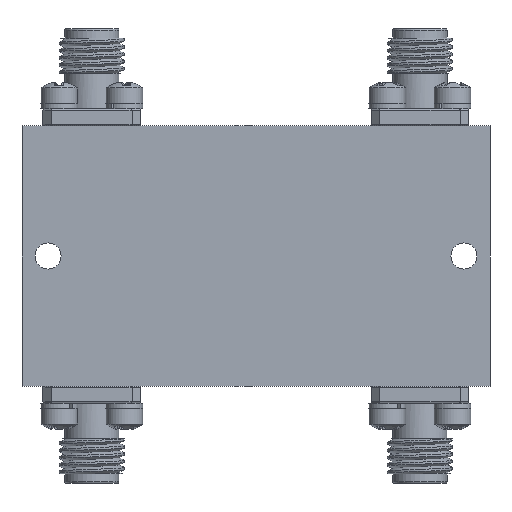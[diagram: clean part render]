
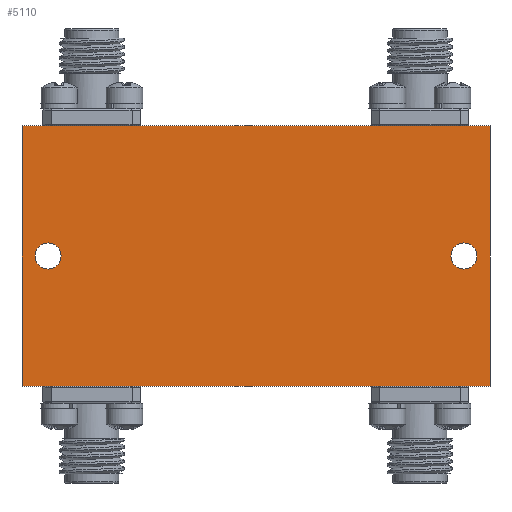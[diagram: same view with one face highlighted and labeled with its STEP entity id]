
A CAD part, front view. The second image highlights one B-rep face of the part: STEP entity #5110.
In plain terms, the highlighted planar face has unit normal (0, -1, 0).
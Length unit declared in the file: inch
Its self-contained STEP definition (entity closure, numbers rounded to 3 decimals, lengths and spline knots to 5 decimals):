
#1113 = LINE ( 'NONE', #6096, #52183 ) ;
#2131 = ORIENTED_EDGE ( 'NONE', *, *, #45389, .T. ) ;
#2616 = EDGE_LOOP ( 'NONE', ( #44532 ) ) ;
#3376 = CARTESIAN_POINT ( 'NONE',  ( -0.7985, -0.2165, 0. ) ) ;
#4237 = CARTESIAN_POINT ( 'NONE',  ( -0.7985, -0.2165, 0.05 ) ) ;
#4431 = PLANE ( 'NONE',  #14221 ) ;
#5110 = ADVANCED_FACE ( 'NONE', ( #8558, #30798, #25552 ), #4431, .F. ) ;
#5269 = AXIS2_PLACEMENT_3D ( 'NONE', #53994, #41235, #7954 ) ;
#5373 = VERTEX_POINT ( 'NONE', #21612 ) ;
#5715 = CARTESIAN_POINT ( 'NONE',  ( 0.8985, -0.2165, -0.5 ) ) ;
#6096 = CARTESIAN_POINT ( 'NONE',  ( -0.8985, -0.2165, -0.5 ) ) ;
#6631 = VECTOR ( 'NONE', #47220, 39.37008 ) ;
#6788 = CARTESIAN_POINT ( 'NONE',  ( 0.8985, -0.2165, -0.5 ) ) ;
#7706 = VECTOR ( 'NONE', #30485, 39.37008 ) ;
#7954 = DIRECTION ( 'NONE',  ( 0., 0., 1. ) ) ;
#8558 = FACE_BOUND ( 'NONE', #2616, .T. ) ;
#9967 = VERTEX_POINT ( 'NONE', #26916 ) ;
#10404 = LINE ( 'NONE', #6788, #41374 ) ;
#12930 = VERTEX_POINT ( 'NONE', #44827 ) ;
#14221 = AXIS2_PLACEMENT_3D ( 'NONE', #51819, #38485, #38780 ) ;
#14502 = ORIENTED_EDGE ( 'NONE', *, *, #37445, .F. ) ;
#20302 = DIRECTION ( 'NONE',  ( 0., 0., 1. ) ) ;
#20478 = EDGE_CURVE ( 'NONE', #12930, #5373, #1113, .T. ) ;
#20624 = VERTEX_POINT ( 'NONE', #4237 ) ;
#21138 = AXIS2_PLACEMENT_3D ( 'NONE', #3376, #41872, #20302 ) ;
#21612 = CARTESIAN_POINT ( 'NONE',  ( -0.8985, -0.2165, 0.5 ) ) ;
#22963 = CIRCLE ( 'NONE', #21138, 0.05 ) ;
#24788 = EDGE_LOOP ( 'NONE', ( #37228, #43103, #49911, #14502 ) ) ;
#25552 = FACE_OUTER_BOUND ( 'NONE', #24788, .T. ) ;
#26916 = CARTESIAN_POINT ( 'NONE',  ( 0.8985, -0.2165, 0.5 ) ) ;
#27814 = VERTEX_POINT ( 'NONE', #5715 ) ;
#30485 = DIRECTION ( 'NONE',  ( 1., 0., 0. ) ) ;
#30798 = FACE_BOUND ( 'NONE', #43592, .T. ) ;
#31036 = CARTESIAN_POINT ( 'NONE',  ( -0.8985, -0.2165, 0.5 ) ) ;
#31458 = VERTEX_POINT ( 'NONE', #32520 ) ;
#32520 = CARTESIAN_POINT ( 'NONE',  ( 0.7985, -0.2165, 0.05 ) ) ;
#37228 = ORIENTED_EDGE ( 'NONE', *, *, #20478, .F. ) ;
#37445 = EDGE_CURVE ( 'NONE', #5373, #9967, #39616, .T. ) ;
#38485 = DIRECTION ( 'NONE',  ( 0., 1., 0. ) ) ;
#38631 = LINE ( 'NONE', #50861, #6631 ) ;
#38780 = DIRECTION ( 'NONE',  ( 0., 0., 1. ) ) ;
#39616 = LINE ( 'NONE', #31036, #7706 ) ;
#41235 = DIRECTION ( 'NONE',  ( 0., 1., 0. ) ) ;
#41374 = VECTOR ( 'NONE', #52558, 39.37008 ) ;
#41478 = EDGE_CURVE ( 'NONE', #27814, #12930, #38631, .T. ) ;
#41872 = DIRECTION ( 'NONE',  ( 0., 1., 0. ) ) ;
#43103 = ORIENTED_EDGE ( 'NONE', *, *, #41478, .F. ) ;
#43592 = EDGE_LOOP ( 'NONE', ( #2131 ) ) ;
#44532 = ORIENTED_EDGE ( 'NONE', *, *, #50541, .T. ) ;
#44827 = CARTESIAN_POINT ( 'NONE',  ( -0.8985, -0.2165, -0.5 ) ) ;
#45389 = EDGE_CURVE ( 'NONE', #31458, #31458, #48647, .T. ) ;
#47220 = DIRECTION ( 'NONE',  ( -1., 0., 0. ) ) ;
#48209 = DIRECTION ( 'NONE',  ( 0., 0., 1. ) ) ;
#48647 = CIRCLE ( 'NONE', #5269, 0.05 ) ;
#49911 = ORIENTED_EDGE ( 'NONE', *, *, #50153, .F. ) ;
#50153 = EDGE_CURVE ( 'NONE', #9967, #27814, #10404, .T. ) ;
#50541 = EDGE_CURVE ( 'NONE', #20624, #20624, #22963, .T. ) ;
#50861 = CARTESIAN_POINT ( 'NONE',  ( -0.8985, -0.2165, -0.5 ) ) ;
#51819 = CARTESIAN_POINT ( 'NONE',  ( 0., -0.2165, 0. ) ) ;
#52183 = VECTOR ( 'NONE', #48209, 39.37008 ) ;
#52558 = DIRECTION ( 'NONE',  ( 0., 0., -1. ) ) ;
#53994 = CARTESIAN_POINT ( 'NONE',  ( 0.7985, -0.2165, 0. ) ) ;
